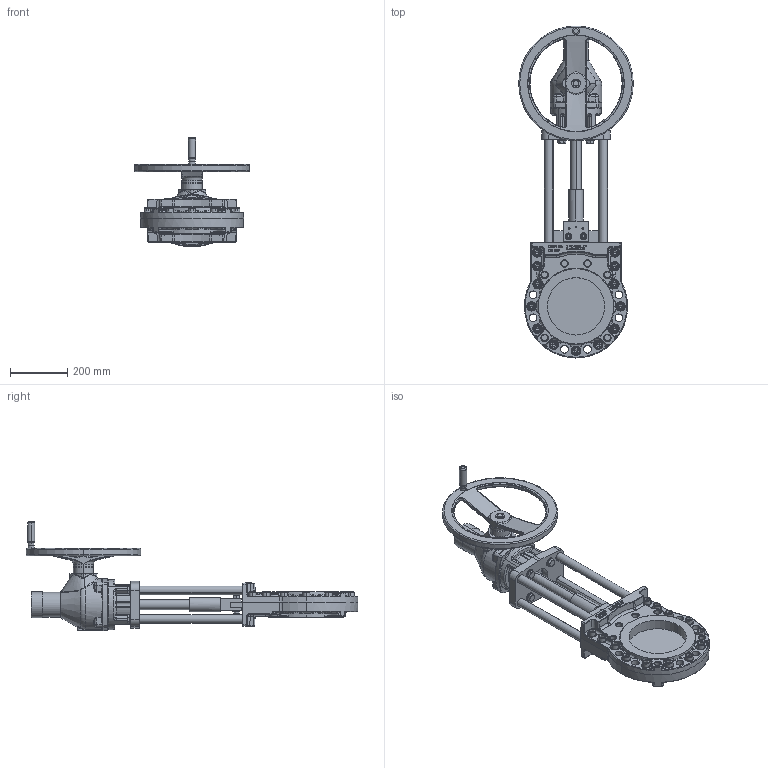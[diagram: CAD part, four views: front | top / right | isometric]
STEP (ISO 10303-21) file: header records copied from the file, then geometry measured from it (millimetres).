
FILE_DESCRIPTION (( 'STEP AP214' ), '1' );
FILE_NAME ('MHA DN 200 GK14.2.STEP', '2015-04-28T08:48:51', ( 'admin' ), ( 'Hewlett-Packard Company' ), 'SwSTEP 2.0', 'SolidWorks 2013', '' );
FILE_SCHEMA (( 'AUTOMOTIVE_DESIGN' ));
Length unit declared in the file: millimetre
Products named in the file (1): MHA DN 200 GK14.2
Bounding box: 400 x 1157 x 380 mm (x, y, z)
Volume: 16126043.9 mm3; surface area: 1537154 mm2
Topology: 54 solids, 65 shells, 2770 faces, 6595 edges, 3886 vertices
Faces by surface type: plane 837, cylinder 730, bspline 465, cone 403, torus 321, sphere 14
Entity records: 131071 total; most frequent: CARTESIAN_POINT 39087, ORIENTED_EDGE 12762, DIRECTION 12686, EDGE_CURVE 6381, AXIS2_PLACEMENT_3D 5123, VERTEX_POINT 3886, EDGE_LOOP 3013, UNCERTAINTY_MEASURE_WITH_UNIT 2824
